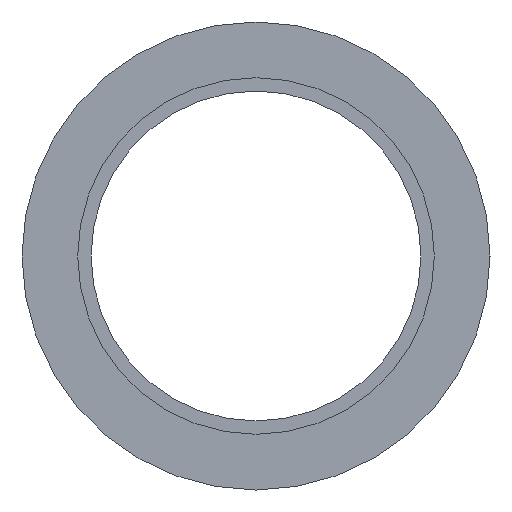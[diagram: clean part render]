
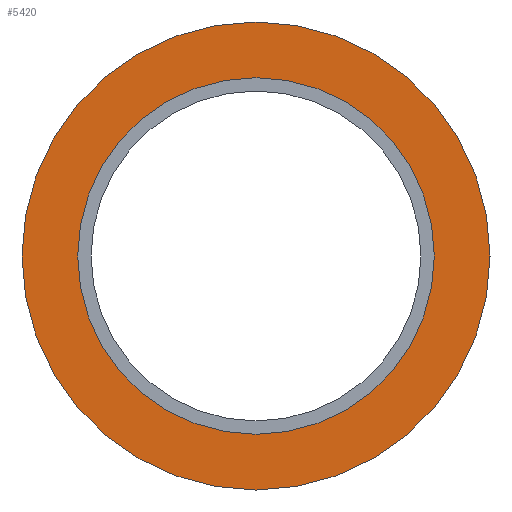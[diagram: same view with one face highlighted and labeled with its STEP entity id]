
A CAD part, left-side view. The second image highlights one B-rep face of the part: STEP entity #5420.
In plain terms, the highlighted planar face has unit normal (-1, 0, 0).
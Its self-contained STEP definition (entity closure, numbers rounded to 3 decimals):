
#4940=CARTESIAN_POINT('',(60.14,16.,0.));
#4950=VERTEX_POINT('',#4940);
#4980=CARTESIAN_POINT('',(60.14,38.7,0.));
#4990=DIRECTION('',(-1.,0.,0.));
#5000=DIRECTION('',(0.,1.,0.));
#5010=AXIS2_PLACEMENT_3D('',#4980,#4990,#5000);
#5020=CIRCLE('',#5010,22.7);
#5030=CARTESIAN_POINT('',(60.14,61.4,0.));
#5040=VERTEX_POINT('',#5030);
#5050=EDGE_CURVE('',#4950,#5040,#5020,.T.);
#5170=CARTESIAN_POINT('',(60.14,59.7,0.));
#5180=DIRECTION('',(-1.,0.,0.));
#5190=DIRECTION('',(0.,1.,0.));
#5200=AXIS2_PLACEMENT_3D('',#5170,#5180,#5190);
#5210=PLANE('',#5200);
#5220=ORIENTED_EDGE('',*,*,#5050,.T.);
#5230=EDGE_CURVE('',#5040,#4950,#5020,.T.);
#5240=ORIENTED_EDGE('',*,*,#5230,.T.);
#5250=EDGE_LOOP('',(#5240,#5220));
#5260=FACE_OUTER_BOUND('',#5250,.T.);
#5270=CARTESIAN_POINT('',(60.14,38.7,0.));
#5280=DIRECTION('',(1.,0.,0.));
#5290=DIRECTION('',(0.,-1.,0.));
#5300=AXIS2_PLACEMENT_3D('',#5270,#5280,#5290);
#5310=CIRCLE('',#5300,17.3);
#5320=CARTESIAN_POINT('',(60.14,21.4,0.));
#5330=VERTEX_POINT('',#5320);
#5340=CARTESIAN_POINT('',(60.14,56.,0.));
#5350=VERTEX_POINT('',#5340);
#5360=EDGE_CURVE('',#5330,#5350,#5310,.T.);
#5370=ORIENTED_EDGE('',*,*,#5360,.T.);
#5380=EDGE_CURVE('',#5350,#5330,#5310,.T.);
#5390=ORIENTED_EDGE('',*,*,#5380,.T.);
#5400=EDGE_LOOP('',(#5390,#5370));
#5410=FACE_BOUND('',#5400,.T.);
#5420=ADVANCED_FACE('',(#5260,#5410),#5210,.T.);
